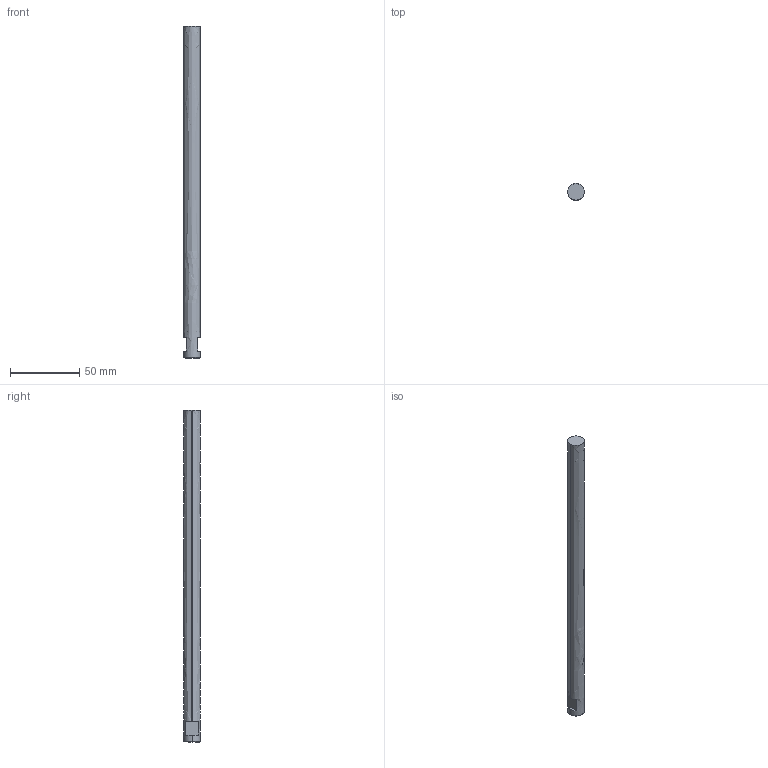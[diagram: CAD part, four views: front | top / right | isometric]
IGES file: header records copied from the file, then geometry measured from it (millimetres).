
Start section: START RECORD GO HERE.
Global section: file name: R8_DrawBar.igs; native system: IBM CATIA IGES - CATIA Version 5 Release 18 ; preprocessor: CATIA Version 5 Release 18 ; author: Barry; organization: win764bit; date: 20170723.073427; units: millimetre
Bounding box: 12 x 12 x 240 mm (x, y, z)
Surface area: 9289.2 mm2 (no closed solid volume)
Topology: 0 solids, 0 shells, 12 faces, 56 edges, 56 vertices
Faces by surface type: plane 8, revolution 4
